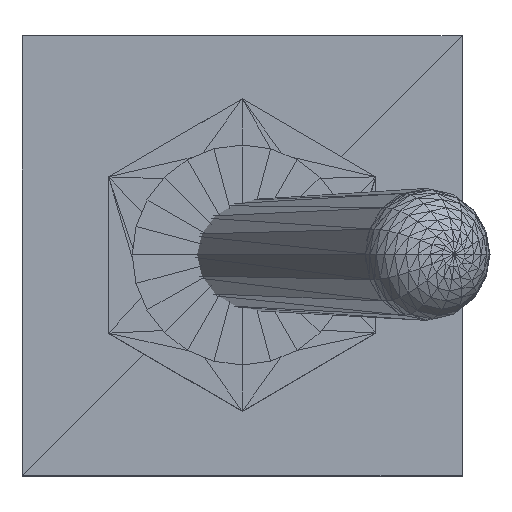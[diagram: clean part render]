
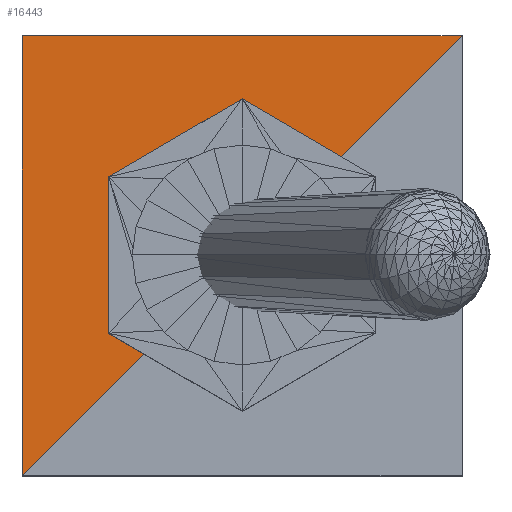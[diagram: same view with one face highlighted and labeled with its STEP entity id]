
A CAD part, top view. The second image highlights one B-rep face of the part: STEP entity #16443.
In plain terms, the highlighted planar face has unit normal (0, 0, 1).
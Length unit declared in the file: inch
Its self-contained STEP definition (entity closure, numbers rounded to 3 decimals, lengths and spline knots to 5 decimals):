
#16268=CARTESIAN_POINT('',(-0.24974,-0.25007,0.51007));
#16269=VERTEX_POINT('',#16268);
#16312=CARTESIAN_POINT('',(0.25012,0.25007,0.50993));
#16313=VERTEX_POINT('',#16312);
#16351=CARTESIAN_POINT('',(-0.24988,0.24993,0.51007));
#16352=VERTEX_POINT('',#16351);
#16360=CARTESIAN_POINT('',(-0.24988,0.24993,0.51007));
#16361=DIRECTION('',(0.,-1.,0.));
#16362=VECTOR('',#16361,0.5);
#16363=LINE('',#16360,#16362);
#16364=EDGE_CURVE('',#16352,#16269,#16363,.T.);
#16390=CARTESIAN_POINT('',(0.25012,0.25007,0.50993));
#16391=DIRECTION('',(-1.,0.,0.));
#16392=VECTOR('',#16391,0.5);
#16393=LINE('',#16390,#16392);
#16394=EDGE_CURVE('',#16313,#16352,#16393,.T.);
#16422=CARTESIAN_POINT('',(0.25012,0.25007,0.50993));
#16423=DIRECTION('',(-0.707,-0.707,0.));
#16424=VECTOR('',#16423,0.70711);
#16425=LINE('',#16422,#16424);
#16426=EDGE_CURVE('',#16313,#16269,#16425,.T.);
#16433=CARTESIAN_POINT('',(-0.24988,0.24993,0.51007));
#16434=DIRECTION('',(0.,0.,1.));
#16435=DIRECTION('',(1.,0.,0.));
#16436=AXIS2_PLACEMENT_3D('',#16433,#16434,#16435);
#16437=PLANE('',#16436);
#16438=ORIENTED_EDGE('',*,*,#16364,.T.);
#16439=ORIENTED_EDGE('',*,*,#16426,.F.);
#16440=ORIENTED_EDGE('',*,*,#16394,.T.);
#16441=EDGE_LOOP('',(#16438,#16439,#16440));
#16442=FACE_BOUND('',#16441,.T.);
#16443=ADVANCED_FACE('',(#16442),#16437,.T.);
